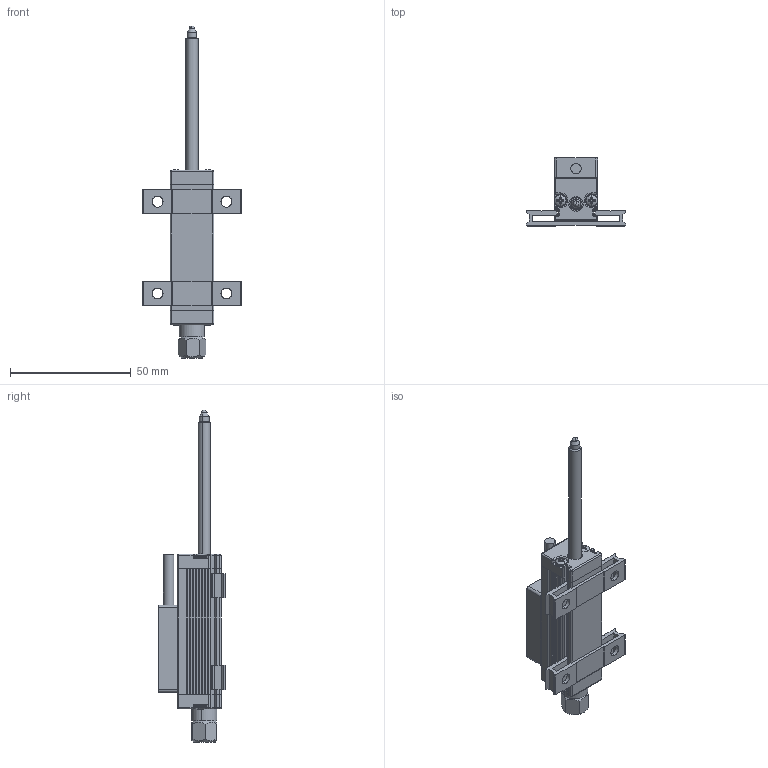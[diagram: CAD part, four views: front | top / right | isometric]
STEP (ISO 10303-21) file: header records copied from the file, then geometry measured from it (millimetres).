
FILE_DESCRIPTION (( 'STEP AP214' ), '1' );
FILE_NAME ('LTR-25 A-V Kablolu.STEP', '2020-12-16T05:20:32', ( '' ), ( '' ), 'SwSTEP 2.0', 'SolidWorks 2014', '' );
FILE_SCHEMA (( 'AUTOMOTIVE_DESIGN' ));
Length unit declared in the file: millimetre
Products named in the file (1): LTR-25 A-V Kablolu
Bounding box: 41 x 28.1 x 137.4 mm (x, y, z)
Surface area: 13768.2 mm2 (no closed solid volume)
Topology: 0 solids, 18 shells, 597 faces, 1926 edges, 1301 vertices
Faces by surface type: cylinder 249, plane 239, cone 47, sphere 34, torus 28
Entity records: 28244 total; most frequent: CARTESIAN_POINT 5287, DIRECTION 3508, ORIENTED_EDGE 3251, EDGE_CURVE 1896, VERTEX_POINT 1301, AXIS2_PLACEMENT_3D 1298, VECTOR 912, LINE 912
